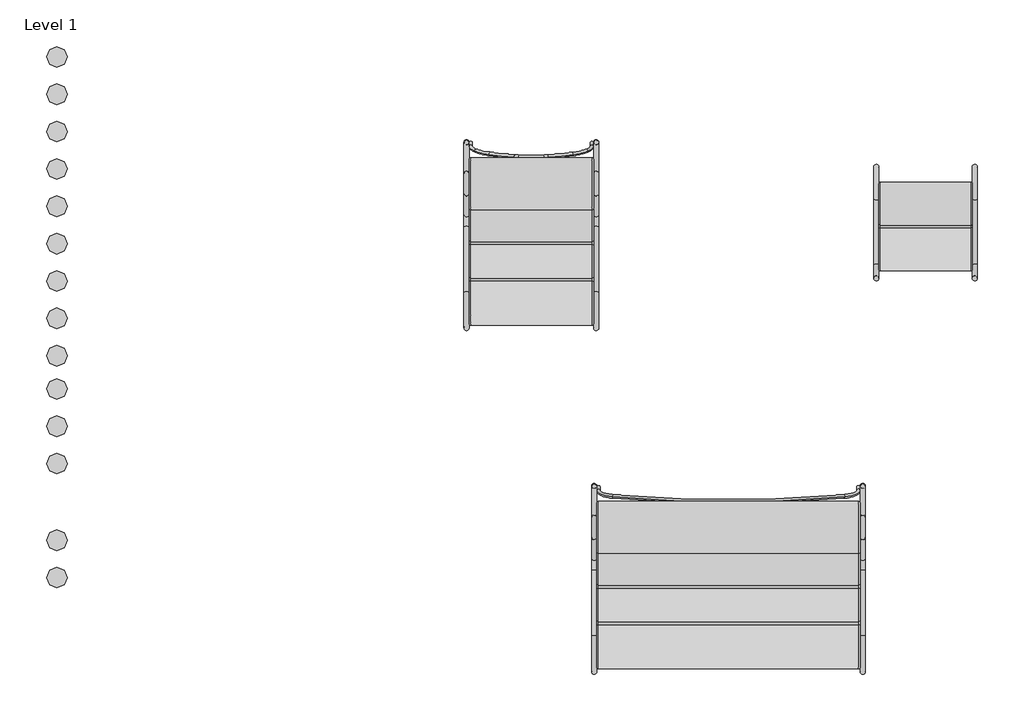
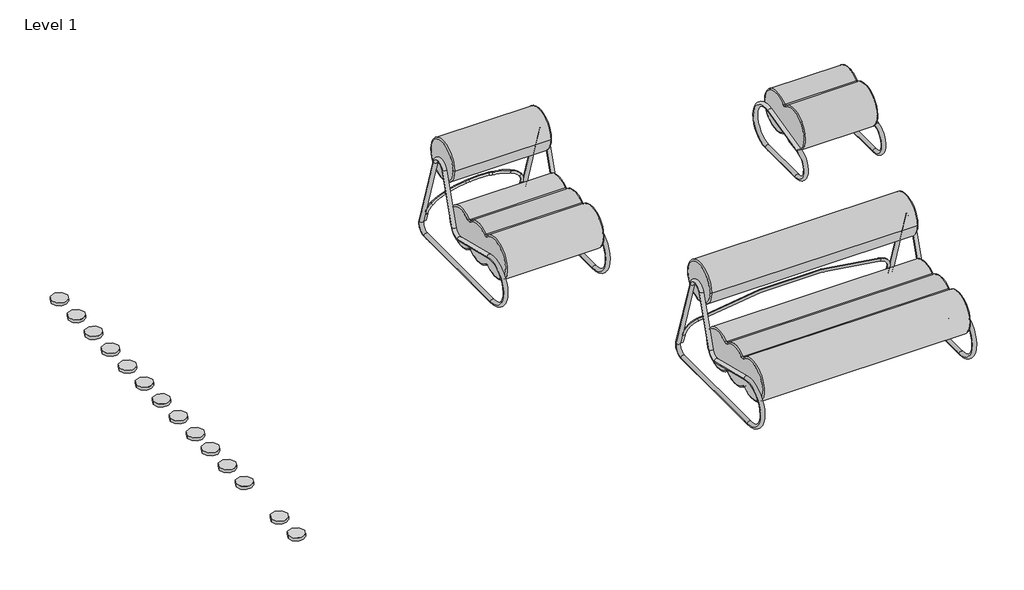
# One storey: 14 proxies, 3 furniture elements.
"""IFC4 building model written with IfcOpenShell, lengths in millimetres."""

from ifc_helpers import new_model, si_unit, origin, place, context, project, spatial, transform, mapped, element, save
from components import materialmodel_materialmodel_885a1eda, furniture_6746b736, furniture_424a3cbe, furniture_c52432c8, furniture_9cea7e63

model = new_model("IFC4")

# Units and contexts
model_context = context("Model", 3, world=origin())
ifc_project = project(units=[si_unit("LENGTHUNIT", "METRE", prefix="MILLI")], contexts=[model_context])

# Site, building, storey
site = spatial("IfcSite", under=ifc_project)
building = spatial("IfcBuilding", under=site)
storey = spatial("IfcBuildingStorey", under=building, Name="Level 1", Elevation=0.0)

# Proxies
placement = place(None, origin())
materialmodel_materialmodel_shape = materialmodel_materialmodel_885a1eda(model_context)
element("IfcBuildingElementProxy", 1, Name="MaterialModel : MaterialModel", ObjectType="MaterialModel : MaterialModel", at=placement, inside=storey, context=model_context, shape_type="MappedRepresentation", body=[
    mapped(materialmodel_materialmodel_shape, transform((-5552.1657896, 4174.5048486, 0.0), x_axis=(1.0, 0.0, 0.0), y_axis=(0.0, 1.0, 0.0), z_axis=(0.0, 0.0, 1.0))),
])
element("IfcBuildingElementProxy", 2, Name="MaterialModel : MaterialModel", ObjectType="MaterialModel : MaterialModel", at=placement, inside=storey, context=model_context, shape_type="MappedRepresentation", body=[
    mapped(materialmodel_materialmodel_shape, transform((-5552.1657896, 1845.2505234, 0.0), x_axis=(1.0, 0.0, 0.0), y_axis=(0.0, 1.0, 0.0), z_axis=(0.0, 0.0, 1.0))),
])
element("IfcBuildingElementProxy", 3, Name="MaterialModel : MaterialModel", ObjectType="MaterialModel : MaterialModel", at=placement, inside=storey, context=model_context, shape_type="MappedRepresentation", body=[
    mapped(materialmodel_materialmodel_shape, transform((-5552.1657896, 3994.5048486, 0.0), x_axis=(1.0, 0.0, 0.0), y_axis=(0.0, 1.0, 0.0), z_axis=(0.0, 0.0, 1.0))),
])
element("IfcBuildingElementProxy", 4, Name="MaterialModel : MaterialModel", ObjectType="MaterialModel : MaterialModel", at=placement, inside=storey, context=model_context, shape_type="MappedRepresentation", body=[
    mapped(materialmodel_materialmodel_shape, transform((-5552.1657896, 3814.5048486, 0.0), x_axis=(1.0, 0.0, 0.0), y_axis=(0.0, 1.0, 0.0), z_axis=(0.0, 0.0, 1.0))),
])
element("IfcBuildingElementProxy", 5, Name="MaterialModel : MaterialModel", ObjectType="MaterialModel : MaterialModel", at=placement, inside=storey, context=model_context, shape_type="MappedRepresentation", body=[
    mapped(materialmodel_materialmodel_shape, transform((-5552.1657896, 3634.5048486, 0.0), x_axis=(1.0, 0.0, 0.0), y_axis=(0.0, 1.0, 0.0), z_axis=(0.0, 0.0, 1.0))),
])
element("IfcBuildingElementProxy", 6, Name="MaterialModel : MaterialModel", ObjectType="MaterialModel : MaterialModel", at=placement, inside=storey, context=model_context, shape_type="MappedRepresentation", body=[
    mapped(materialmodel_materialmodel_shape, transform((-5552.1657896, 3454.5048486, 0.0), x_axis=(1.0, 0.0, 0.0), y_axis=(0.0, 1.0, 0.0), z_axis=(0.0, 0.0, 1.0))),
])
element("IfcBuildingElementProxy", 7, Name="MaterialModel : MaterialModel", ObjectType="MaterialModel : MaterialModel", at=placement, inside=storey, context=model_context, shape_type="MappedRepresentation", body=[
    mapped(materialmodel_materialmodel_shape, transform((-5552.1657896, 3274.5048486, 0.0), x_axis=(1.0, 0.0, 0.0), y_axis=(0.0, 1.0, 0.0), z_axis=(0.0, 0.0, 1.0))),
])
element("IfcBuildingElementProxy", 8, Name="MaterialModel : MaterialModel", ObjectType="MaterialModel : MaterialModel", at=placement, inside=storey, context=model_context, shape_type="MappedRepresentation", body=[
    mapped(materialmodel_materialmodel_shape, transform((-5552.1657896, 3094.5048486, 0.0), x_axis=(1.0, 0.0, 0.0), y_axis=(0.0, 1.0, 0.0), z_axis=(0.0, 0.0, 1.0))),
])
element("IfcBuildingElementProxy", 9, Name="MaterialModel : MaterialModel", ObjectType="MaterialModel : MaterialModel", at=placement, inside=storey, context=model_context, shape_type="MappedRepresentation", body=[
    mapped(materialmodel_materialmodel_shape, transform((-5552.1657896, 2914.5048486, 0.0), x_axis=(1.0, 0.0, 0.0), y_axis=(0.0, 1.0, 0.0), z_axis=(0.0, 0.0, 1.0))),
])
element("IfcBuildingElementProxy", 10, Name="MaterialModel : MaterialModel", ObjectType="MaterialModel : MaterialModel", at=placement, inside=storey, context=model_context, shape_type="MappedRepresentation", body=[
    mapped(materialmodel_materialmodel_shape, transform((-5552.1657896, 2734.5048486, 0.0), x_axis=(1.0, 0.0, 0.0), y_axis=(0.0, 1.0, 0.0), z_axis=(0.0, 0.0, 1.0))),
])
element("IfcBuildingElementProxy", 11, Name="MaterialModel : MaterialModel", ObjectType="MaterialModel : MaterialModel", at=placement, inside=storey, context=model_context, shape_type="MappedRepresentation", body=[
    mapped(materialmodel_materialmodel_shape, transform((-5552.1657896, 1665.2505234, 0.0), x_axis=(1.0, 0.0, 0.0), y_axis=(0.0, 1.0, 0.0), z_axis=(0.0, 0.0, 1.0))),
])
element("IfcBuildingElementProxy", 12, Name="MaterialModel : MaterialModel", ObjectType="MaterialModel : MaterialModel", at=placement, inside=storey, context=model_context, shape_type="MappedRepresentation", body=[
    mapped(materialmodel_materialmodel_shape, transform((-5552.1657896, 2574.5048486, 0.0), x_axis=(1.0, 0.0, 0.0), y_axis=(0.0, 1.0, 0.0), z_axis=(0.0, 0.0, 1.0))),
])
element("IfcBuildingElementProxy", 13, Name="MaterialModel : MaterialModel", ObjectType="MaterialModel : MaterialModel", at=placement, inside=storey, context=model_context, shape_type="MappedRepresentation", body=[
    mapped(materialmodel_materialmodel_shape, transform((-5552.1657896, 2394.5048486, 0.0), x_axis=(1.0, 0.0, 0.0), y_axis=(0.0, 1.0, 0.0), z_axis=(0.0, 0.0, 1.0))),
])
element("IfcBuildingElementProxy", 14, Name="MaterialModel : MaterialModel", ObjectType="MaterialModel : MaterialModel", at=placement, inside=storey, context=model_context, shape_type="MappedRepresentation", body=[
    mapped(materialmodel_materialmodel_shape, transform((-5552.1657896, 2214.5048486, 0.0), x_axis=(1.0, 0.0, 0.0), y_axis=(0.0, 1.0, 0.0), z_axis=(0.0, 0.0, 1.0))),
])

# Furniture
furniture_shape = furniture_6746b736(model_context)
element("IfcFurniture", 15, ObjectType="Norr11 - Fave Ottoman : Norr11 - Fave Ottoman", at=placement, inside=storey, context=model_context, shape_type="MappedRepresentation", body=[
    mapped(furniture_shape, transform((-1365.5013961, 3355.4499354, 0.0), x_axis=(1.0, 0.0, 0.0), y_axis=(0.0, 1.0, 0.0), z_axis=(0.0, 0.0, 1.0))),
])
furniture_2_shape = furniture_424a3cbe(model_context)
furniture_3_shape = furniture_c52432c8(model_context)
element("IfcFurniture", 16, ObjectType="Norr11 - Fave Chair : Norr11 - Fave Chair", at=placement, inside=storey, context=model_context, shape_type="MappedRepresentation", body=[
    mapped(furniture_2_shape, transform((-3265.5013961, 3355.4499354, 0.0), x_axis=(1.0, 0.0, 0.0), y_axis=(0.0, 1.0, 0.0), z_axis=(0.0, 0.0, 1.0))),
    mapped(furniture_3_shape, transform((-3265.5013961, 3355.4499354, 0.0), x_axis=(1.0, 0.0, 0.0), y_axis=(0.0, 1.0, 0.0), z_axis=(0.0, 0.0, 1.0))),
])
furniture_4_shape = furniture_9cea7e63(model_context)
element("IfcFurniture", 17, ObjectType="Norr11 - Fave Sofa : Norr11 - Fave Sofa", at=placement, inside=storey, context=model_context, shape_type="MappedRepresentation", body=[
    mapped(furniture_4_shape, transform((-2315.5013961, 1699.1420342, 0.0), x_axis=(1.0, 0.0, 0.0), y_axis=(0.0, 1.0, 0.0), z_axis=(0.0, 0.0, 1.0))),
])

save(model, "model.ifc")
